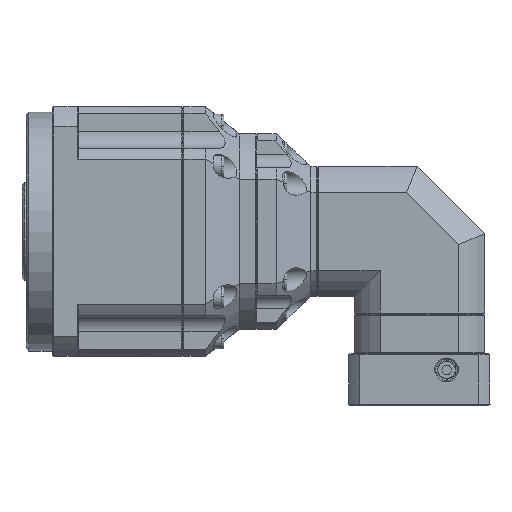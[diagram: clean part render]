
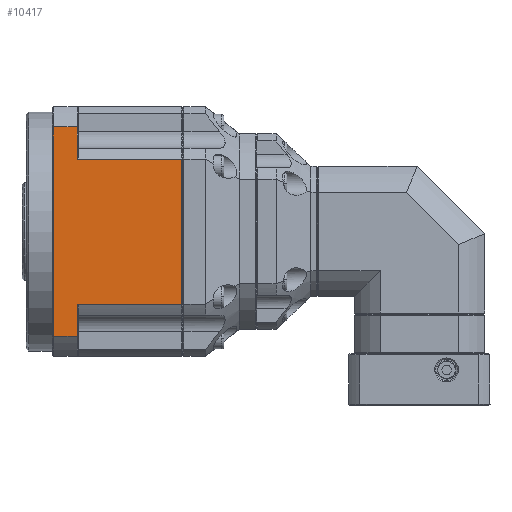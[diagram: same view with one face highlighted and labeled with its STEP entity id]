
A CAD part, left-side view. The second image highlights one B-rep face of the part: STEP entity #10417.
In plain terms, the highlighted planar face has unit normal (1, 0, 0).
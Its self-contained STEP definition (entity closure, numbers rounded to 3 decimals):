
#4946 = CARTESIAN_POINT ( 'NONE',  ( -57.5, 13.889, -33.407 ) ) ;
#5826 = VECTOR ( 'NONE', #42786, 1000. ) ;
#6081 = EDGE_CURVE ( 'NONE', #32995, #43952, #61954, .T. ) ;
#10417 = ADVANCED_FACE ( 'NONE', ( #90991 ), #69991, .T. ) ;
#12224 = EDGE_CURVE ( 'NONE', #88006, #52136, #59994, .T. ) ;
#13232 = EDGE_CURVE ( 'NONE', #52136, #51016, #18018, .T. ) ;
#15262 = CARTESIAN_POINT ( 'NONE',  ( -57.5, 19.389, -48.153 ) ) ;
#15555 = VECTOR ( 'NONE', #87368, 1000. ) ;
#16713 = ORIENTED_EDGE ( 'NONE', *, *, #66024, .F. ) ;
#18018 = LINE ( 'NONE', #62293, #55809 ) ;
#19834 = VECTOR ( 'NONE', #71136, 1000. ) ;
#21750 = VECTOR ( 'NONE', #60701, 1000. ) ;
#23168 = VECTOR ( 'NONE', #75661, 1000. ) ;
#23523 = ORIENTED_EDGE ( 'NONE', *, *, #13232, .F. ) ;
#26136 = DIRECTION ( 'NONE',  ( 0., 1., 0. ) ) ;
#31416 = ORIENTED_EDGE ( 'NONE', *, *, #61040, .F. ) ;
#31635 = VERTEX_POINT ( 'NONE', #80478 ) ;
#31640 = LINE ( 'NONE', #84787, #57585 ) ;
#32995 = VERTEX_POINT ( 'NONE', #74470 ) ;
#33670 = CARTESIAN_POINT ( 'NONE',  ( -57.5, 13.889, -48.153 ) ) ;
#38083 = EDGE_CURVE ( 'NONE', #88006, #43952, #83351, .T. ) ;
#39247 = ORIENTED_EDGE ( 'NONE', *, *, #12224, .F. ) ;
#39710 = EDGE_CURVE ( 'NONE', #77800, #77806, #76106, .T. ) ;
#41319 = ORIENTED_EDGE ( 'NONE', *, *, #6081, .F. ) ;
#42786 = DIRECTION ( 'NONE',  ( 0., 1., 0. ) ) ;
#43952 = VERTEX_POINT ( 'NONE', #64039 ) ;
#45467 = CARTESIAN_POINT ( 'NONE',  ( -57.5, 24.889, 0. ) ) ;
#47214 = DIRECTION ( 'NONE',  ( 1., 0., 0. ) ) ;
#48277 = CARTESIAN_POINT ( 'NONE',  ( -57.5, -4.611, 33.407 ) ) ;
#51016 = VERTEX_POINT ( 'NONE', #92973 ) ;
#52136 = VERTEX_POINT ( 'NONE', #4946 ) ;
#53885 = EDGE_CURVE ( 'NONE', #51016, #77800, #31640, .T. ) ;
#54804 = DIRECTION ( 'NONE',  ( 0., 0., 1. ) ) ;
#55757 = LINE ( 'NONE', #94961, #15555 ) ;
#55809 = VECTOR ( 'NONE', #91925, 1000. ) ;
#56058 = VECTOR ( 'NONE', #26136, 1000. ) ;
#57585 = VECTOR ( 'NONE', #54804, 1000. ) ;
#59994 = LINE ( 'NONE', #63599, #19834 ) ;
#60701 = DIRECTION ( 'NONE',  ( 0., 0., -1. ) ) ;
#61040 = EDGE_CURVE ( 'NONE', #31635, #32995, #61425, .T. ) ;
#61425 = LINE ( 'NONE', #80358, #5826 ) ;
#61954 = LINE ( 'NONE', #45467, #21750 ) ;
#62293 = CARTESIAN_POINT ( 'NONE',  ( -57.5, -4.611, -33.407 ) ) ;
#62456 = CARTESIAN_POINT ( 'NONE',  ( -57.5, -34.111, 48.153 ) ) ;
#63599 = CARTESIAN_POINT ( 'NONE',  ( -57.5, 13.889, 0. ) ) ;
#64039 = CARTESIAN_POINT ( 'NONE',  ( -57.5, 24.889, -48.153 ) ) ;
#66024 = EDGE_CURVE ( 'NONE', #77806, #31635, #55757, .T. ) ;
#67779 = AXIS2_PLACEMENT_3D ( 'NONE', #62456, #47214, #77578 ) ;
#69991 = PLANE ( 'NONE',  #67779 ) ;
#71136 = DIRECTION ( 'NONE',  ( 0., 0., 1. ) ) ;
#74470 = CARTESIAN_POINT ( 'NONE',  ( -57.5, 24.889, 48.153 ) ) ;
#75661 = DIRECTION ( 'NONE',  ( 0., 1., 0. ) ) ;
#76106 = LINE ( 'NONE', #48277, #56058 ) ;
#76747 = EDGE_LOOP ( 'NONE', ( #16713, #82075, #91594, #23523, #39247, #94861, #41319, #31416 ) ) ;
#77578 = DIRECTION ( 'NONE',  ( 0., 0., -1. ) ) ;
#77800 = VERTEX_POINT ( 'NONE', #78754 ) ;
#77806 = VERTEX_POINT ( 'NONE', #86345 ) ;
#78754 = CARTESIAN_POINT ( 'NONE',  ( -57.5, -34.111, 33.407 ) ) ;
#80358 = CARTESIAN_POINT ( 'NONE',  ( -57.5, -4.611, 48.153 ) ) ;
#80478 = CARTESIAN_POINT ( 'NONE',  ( -57.5, 13.889, 48.153 ) ) ;
#82075 = ORIENTED_EDGE ( 'NONE', *, *, #39710, .F. ) ;
#83351 = LINE ( 'NONE', #15262, #23168 ) ;
#84787 = CARTESIAN_POINT ( 'NONE',  ( -57.5, -34.111, 0. ) ) ;
#86345 = CARTESIAN_POINT ( 'NONE',  ( -57.5, 13.889, 33.407 ) ) ;
#87368 = DIRECTION ( 'NONE',  ( 0., 0., 1. ) ) ;
#88006 = VERTEX_POINT ( 'NONE', #33670 ) ;
#90991 = FACE_OUTER_BOUND ( 'NONE', #76747, .T. ) ;
#91594 = ORIENTED_EDGE ( 'NONE', *, *, #53885, .F. ) ;
#91925 = DIRECTION ( 'NONE',  ( 0., -1., 0. ) ) ;
#92973 = CARTESIAN_POINT ( 'NONE',  ( -57.5, -34.111, -33.407 ) ) ;
#94861 = ORIENTED_EDGE ( 'NONE', *, *, #38083, .T. ) ;
#94961 = CARTESIAN_POINT ( 'NONE',  ( -57.5, 13.889, 0. ) ) ;
